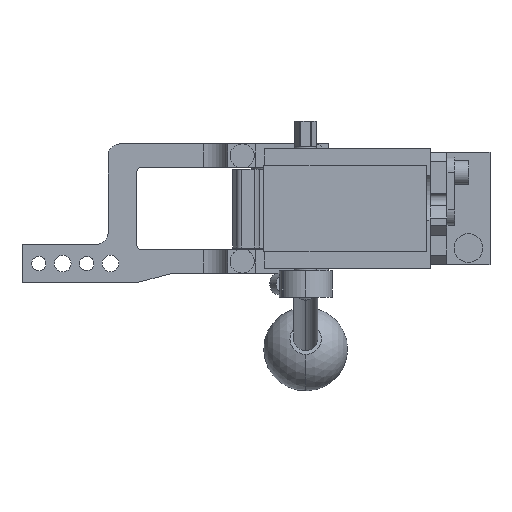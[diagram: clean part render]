
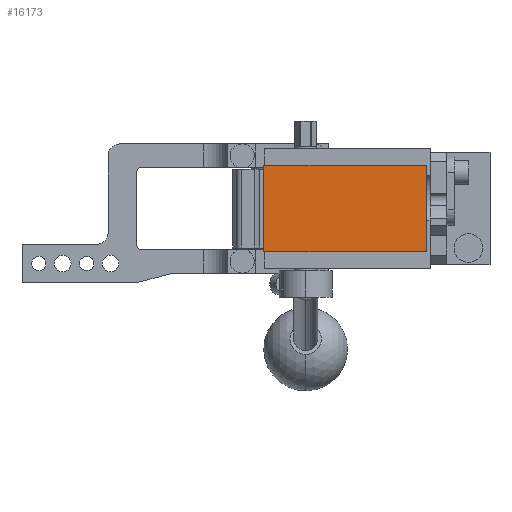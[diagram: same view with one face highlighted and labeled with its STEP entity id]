
A CAD part, front view. The second image highlights one B-rep face of the part: STEP entity #16173.
In plain terms, the highlighted planar face has unit normal (0, -1, 0).
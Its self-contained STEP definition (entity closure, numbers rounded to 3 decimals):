
#1051 = EDGE_CURVE ( 'NONE', #11617, #1446, #12827, .T. ) ;
#1446 = VERTEX_POINT ( 'NONE', #2956 ) ;
#1667 = DIRECTION ( 'NONE',  ( 0., 0., -1. ) ) ;
#1941 = LINE ( 'NONE', #4388, #9189 ) ;
#2488 = VECTOR ( 'NONE', #3335, 1000. ) ;
#2650 = DIRECTION ( 'NONE',  ( 0., 0., 1. ) ) ;
#2742 = LINE ( 'NONE', #10391, #7587 ) ;
#2846 = ORIENTED_EDGE ( 'NONE', *, *, #1051, .T. ) ;
#2956 = CARTESIAN_POINT ( 'NONE',  ( -6., -233., -18. ) ) ;
#3093 = CARTESIAN_POINT ( 'NONE',  ( -6., -233., -18. ) ) ;
#3335 = DIRECTION ( 'NONE',  ( 1., 0., 0. ) ) ;
#3572 = CARTESIAN_POINT ( 'NONE',  ( 62., -233., 18. ) ) ;
#3698 = PLANE ( 'NONE',  #8521 ) ;
#3817 = VECTOR ( 'NONE', #1667, 1000. ) ;
#3917 = VERTEX_POINT ( 'NONE', #3572 ) ;
#4172 = EDGE_CURVE ( 'NONE', #9308, #3917, #2742, .T. ) ;
#4388 = CARTESIAN_POINT ( 'NONE',  ( -6., -233., 18. ) ) ;
#5030 = EDGE_CURVE ( 'NONE', #3917, #11617, #1941, .T. ) ;
#6160 = ORIENTED_EDGE ( 'NONE', *, *, #14604, .T. ) ;
#6647 = EDGE_LOOP ( 'NONE', ( #2846, #6160, #7230, #8426 ) ) ;
#7230 = ORIENTED_EDGE ( 'NONE', *, *, #4172, .T. ) ;
#7357 = DIRECTION ( 'NONE',  ( 0., -1., 0. ) ) ;
#7587 = VECTOR ( 'NONE', #2650, 1000. ) ;
#8422 = CARTESIAN_POINT ( 'NONE',  ( 0., -233., 0. ) ) ;
#8426 = ORIENTED_EDGE ( 'NONE', *, *, #5030, .T. ) ;
#8521 = AXIS2_PLACEMENT_3D ( 'NONE', #8422, #7357, #13638 ) ;
#9189 = VECTOR ( 'NONE', #10580, 1000. ) ;
#9308 = VERTEX_POINT ( 'NONE', #13625 ) ;
#9320 = CARTESIAN_POINT ( 'NONE',  ( -6., -233., 18. ) ) ;
#10391 = CARTESIAN_POINT ( 'NONE',  ( 62., -233., 18. ) ) ;
#10580 = DIRECTION ( 'NONE',  ( -1., 0., 0. ) ) ;
#10916 = CARTESIAN_POINT ( 'NONE',  ( -6., -233., 18. ) ) ;
#11617 = VERTEX_POINT ( 'NONE', #10916 ) ;
#12827 = LINE ( 'NONE', #9320, #3817 ) ;
#13412 = FACE_OUTER_BOUND ( 'NONE', #6647, .T. ) ;
#13625 = CARTESIAN_POINT ( 'NONE',  ( 62., -233., -18. ) ) ;
#13638 = DIRECTION ( 'NONE',  ( 0., 0., -1. ) ) ;
#14604 = EDGE_CURVE ( 'NONE', #1446, #9308, #15426, .T. ) ;
#15426 = LINE ( 'NONE', #3093, #2488 ) ;
#16173 = ADVANCED_FACE ( 'NONE', ( #13412 ), #3698, .T. ) ;
